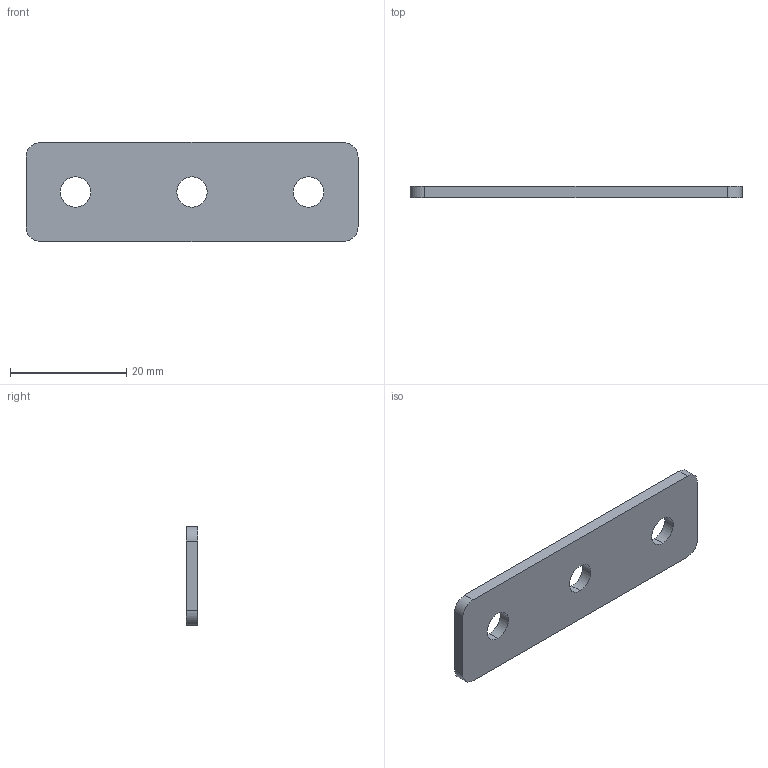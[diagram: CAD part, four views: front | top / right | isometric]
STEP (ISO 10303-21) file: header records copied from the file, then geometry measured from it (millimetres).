
FILE_DESCRIPTION (( 'STEP AP203' ), '1' );
FILE_NAME ('ﾏ-3-20.STEP', '2016-07-23T14:33:47', ( '' ), ( '' ), 'SwSTEP 2.0', 'SolidWorks 2014', '' );
FILE_SCHEMA (( 'CONFIG_CONTROL_DESIGN' ));
Length unit declared in the file: millimetre
Products named in the file (1): ﾏ-3-20
Bounding box: 57 x 2 x 17 mm (x, y, z)
Surface area: 2185.3 mm2 (no closed solid volume)
Topology: 0 solids, 1 shells, 16 faces, 42 edges, 28 vertices
Faces by surface type: cylinder 10, plane 6
Entity records: 595 total; most frequent: DIRECTION 96, CARTESIAN_POINT 87, ORIENTED_EDGE 84, EDGE_CURVE 42, AXIS2_PLACEMENT_3D 37, VERTEX_POINT 28, EDGE_LOOP 22, VECTOR 22
